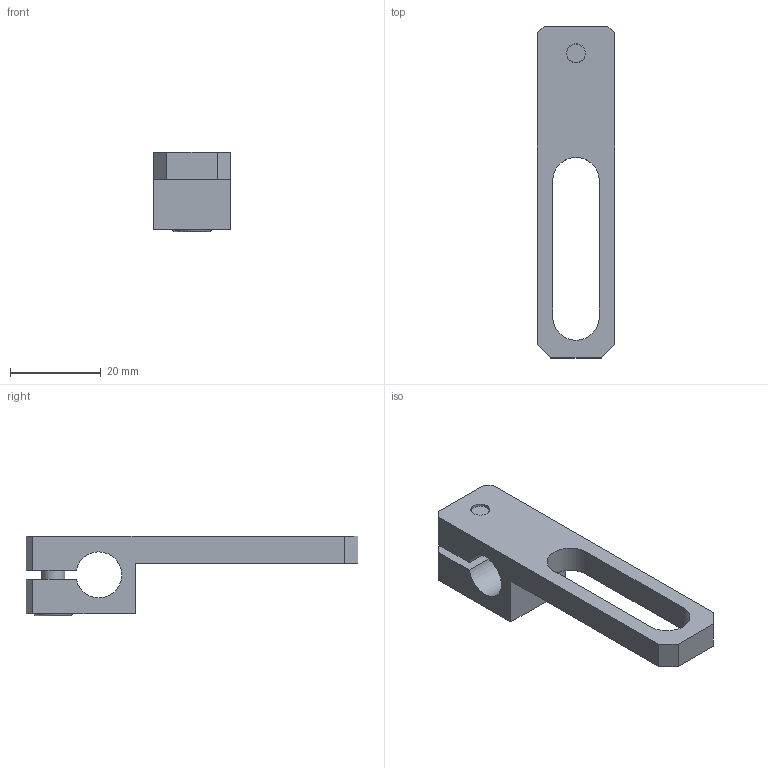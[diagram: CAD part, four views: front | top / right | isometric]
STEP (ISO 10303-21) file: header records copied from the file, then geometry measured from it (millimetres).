
FILE_DESCRIPTION(('STEP AP214'),'1');
FILE_NAME('CA.STS.1010.stp','2022-06-21T12:56:42',(' '),(' '),'Spatial InterOp 3D',' ',' ');
FILE_SCHEMA(('AUTOMOTIVE_DESIGN { 1 0 10303 214 1 1 1 1 }'));
Length unit declared in the file: millimetre
Products named in the file (4): CA.STS.1010; V.TCE5x12; R.5.SCH; STS.1010
Assembly tree (3 placements, depth 2):
  CA.STS.1010
    V.TCE5x12
    R.5.SCH
    STS.1010
Bounding box: 17 x 73 x 17.5 mm (x, y, z)
Volume: 7765.6 mm3; surface area: 5602.3 mm2
Topology: 3 solids, 3 shells, 235 faces, 678 edges, 450 vertices
Faces by surface type: plane 222, cylinder 10, torus 2, cone 1
Full cylindrical faces by diameter (mm): 4.2 x1, 5 x1, 5.3 x1, 5.5 x1, 8.5 x1, 9 x1, 9.5 x1
Entity records: 9773 total; most frequent: DIRECTION 1356, CARTESIAN_POINT 1355, ORIENTED_EDGE 1334, EDGE_CURVE 667, LINE 456, VECTOR 456, AXIS2_PLACEMENT_3D 450, VERTEX_POINT 449
